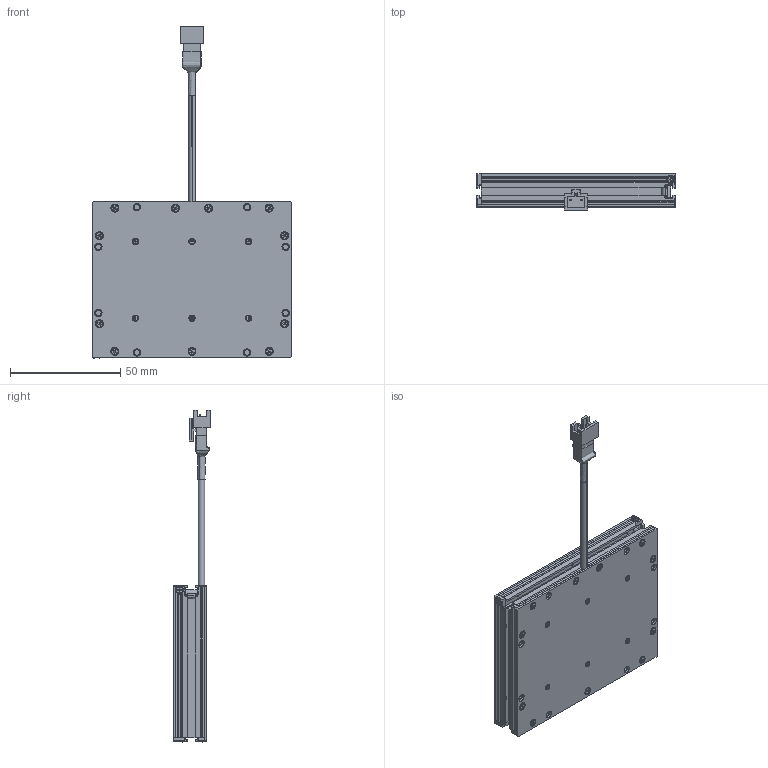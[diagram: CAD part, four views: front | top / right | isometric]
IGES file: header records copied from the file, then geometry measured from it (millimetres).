
Start section: SolidWorks IGES file using analytic representation for surfaces
Global section: file name: C:\Users\user\Downloads\TEMP_STEP\VDF-7758_Drawing_L1180A-A00100.IGS; native system: SolidWorks 2018; preprocessor: SolidWorks 2018; author: user; date: 231221.061710; units: millimetre
Bounding box: 90 x 16.55 x 150.7 mm (x, y, z)
Surface area: 35803.5 mm2 (no closed solid volume)
Topology: 0 solids, 0 shells, 756 faces, 8390 edges, 8390 vertices
Faces by surface type: bspline 502, revolution 254
